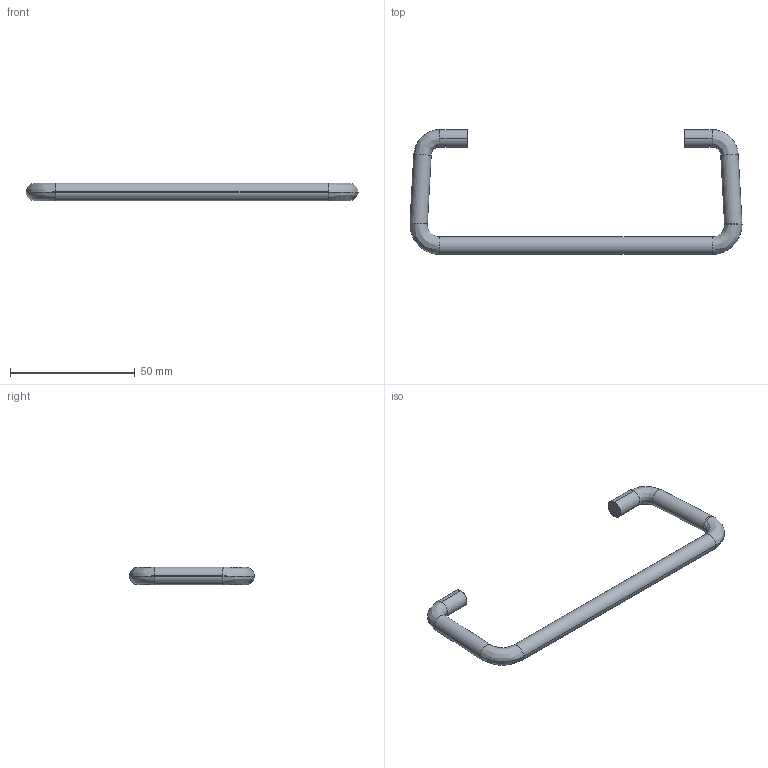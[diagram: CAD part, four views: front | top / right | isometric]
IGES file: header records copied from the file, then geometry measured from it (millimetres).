
Start section: SolidWorks IGES FILE using analytic representation for surfaces
Global section: file name: C:\Documents and Settings\lecoutey\Bureau\PO 321\321.030.00.IGS; native system: SolidWorks 2004 by SolidWorks Corporation; preprocessor: Version 5.3; author: lecoutey; date: 050408.135417; units: millimetre
Bounding box: 132.98 x 50 x 7 mm (x, y, z)
Surface area: 5240 mm2 (no closed solid volume)
Topology: 0 solids, 0 shells, 22 faces, 152 edges, 152 vertices
Faces by surface type: bspline 12, revolution 10
